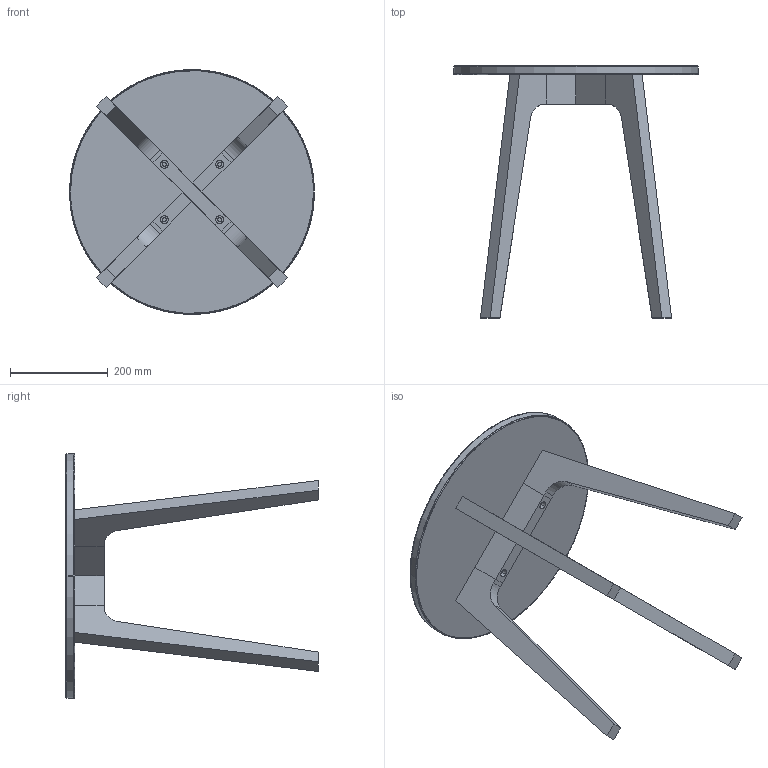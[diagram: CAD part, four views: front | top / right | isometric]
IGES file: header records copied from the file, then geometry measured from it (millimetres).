
Start section: SolidWorks IGES file using analytic representation for surfaces
Global section: file name: P:\3D CAD BLOCKS\AGENT\SIDE TABLE\CIRC\AGE31+AGE32.IGS; native system: SolidWorks 2012; preprocessor: SolidWorks 2012; author: tom; date: 160520.123953; units: millimetre
Bounding box: 500 x 515 x 500 mm (x, y, z)
Surface area: 828076.3 mm2 (no closed solid volume)
Topology: 0 solids, 0 shells, 140 faces, 1964 edges, 1964 vertices
Faces by surface type: bspline 92, revolution 48
